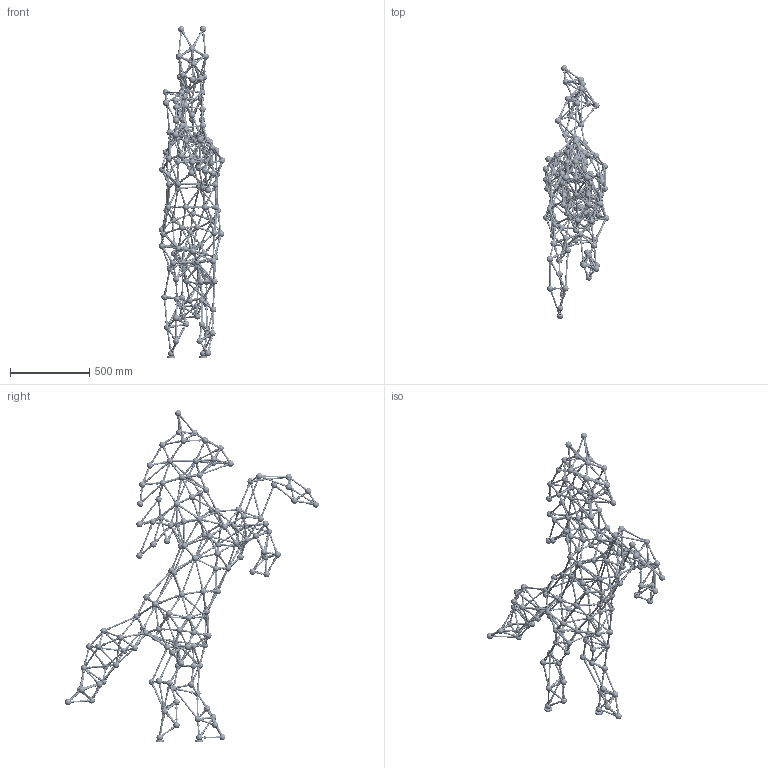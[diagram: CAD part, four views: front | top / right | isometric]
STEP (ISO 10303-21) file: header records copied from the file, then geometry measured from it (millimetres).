
FILE_DESCRIPTION(('Open CASCADE Model'),'2;1');
FILE_NAME('Open CASCADE Shape Model','2026-10-21T12:47:56',('Author'),( 'Open CASCADE'),'Open CASCADE STEP processor 7.9','Open CASCADE 7.9' ,'Unknown');
FILE_SCHEMA(('AUTOMOTIVE_DESIGN { 1 0 10303 214 1 1 1 1 }'));
Length unit declared in the file: millimetre
Products named in the file (169): HORSE_EXTERIOR_U1; E0000_NUT_U; E0000_SPACER_U; E0000_T00; E0000_STUD00; E0000_T01; E0002_T00; E0003_T00; E0005_T01; E0011_T00; E0020_T01; E0059_T01; E0127_T01; N0000; N0001; N0002; N0004; N0005; N0007; N0009; N0010; N0011; N0013; N0014; N0015; N0016; N0018; N0019; N0020; N0021; N0022; N0025; N0026; N0028; N0030; N0032; N0033; N0034; N0038; N0039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
Assembly tree (3040 placements, depth 2):
  HORSE_EXTERIOR_U1
    E0000_NUT_U  x816
    E0000_SPACER_U  x816
    E0000_T00  x106
    E0000_STUD00  x421
    E0000_T01  x275
    E0002_T00  x99
    E0003_T00  x93
    E0005_T01  x114
    E0011_T00  x129
    E0020_T01  x5
    E0059_T01  x7
    E0127_T01
    N0000
    N0001
    N0002
    N0004
    N0005
    N0007
    N0009
    N0010
    N0011
    N0013
    N0014
    N0015
    N0016
    N0018
    N0019
    N0020
    N0021
    N0022
    N0025
    N0026
    N0028
    N0030
    N0032
    N0033
    N0034
    N0038
    N0039
    N0043
    N0045
    N0047
    N0048
    N0049
    N0051
    N0052
    N0053
    N0055
    N0057
    N0061
    N0062
    N0064
    N0068
    N0069
    N0070
    N0071
    N0072
    N0073
    N0074
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Bounding box: 420.76 x 1607.78 x 2100 mm (x, y, z)
Volume: 9452935.7 mm3; surface area: 3660770.2 mm2
Topology: 3040 solids, 3040 shells, 30967 faces, 60296 edges, 39930 vertices
Faces by surface type: plane 15612, cylinder 14357, cone 842, sphere 156
Full cylindrical faces by diameter (mm): 3.3 x829, 3.9 x421, 4.1 x842, 4.5 x816, 5.9 x2, 6.1 x2, 6.6 x2, 10 x831, 10.2 x816, 10.5 x2, 10.8 x1632, 11.1 x816, 11.9 x816, 12 x816, 12.1 x816, 50 x2
Entity records: 110072 total; most frequent: DIRECTION 22675, CARTESIAN_POINT 16097, ORIENTED_EDGE 11230, AXIS2_PLACEMENT_3D 10475, EDGE_CURVE 5615, FACE_BOUND 5058, EDGE_LOOP 4997, VERTEX_POINT 3897
